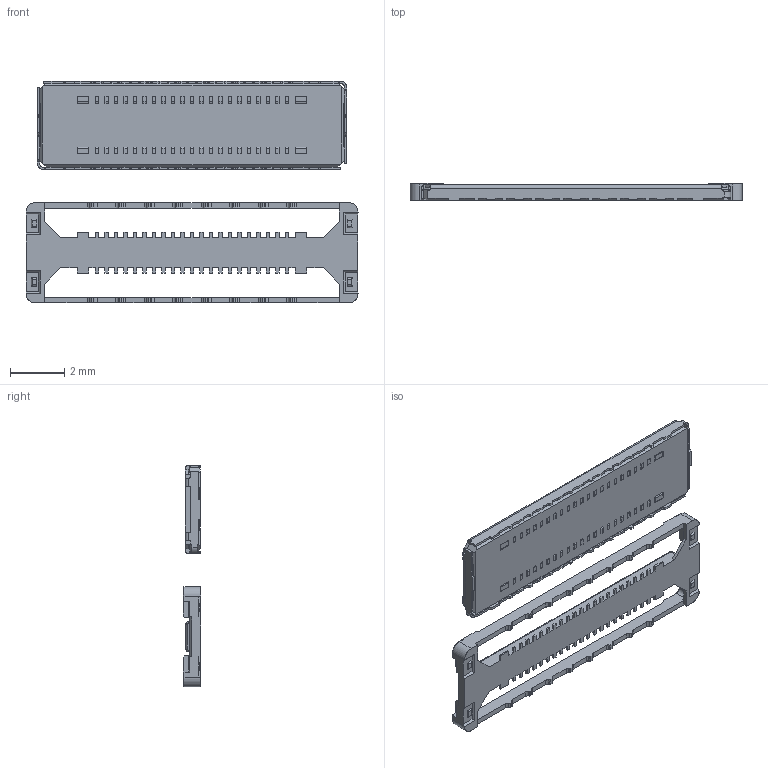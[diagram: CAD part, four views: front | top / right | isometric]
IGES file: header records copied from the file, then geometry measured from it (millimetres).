
Start section: SolidWorks IGES file using analytic representation for surfaces
Global section: file name: C:\3dwork\Baba\20230721 NOVA25-HDP WITH CAP 2IN1 HIMƒ‚ƒfƒ‹\3Dƒ‚ƒfƒ‹—p\STEP&IGES\21001-042E-01C NOVASTACK 35-HDP WITH CAP 2-IN-1 WITHOUT CAP IGES R1 ALL.IGS; native system: SolidWorks 2020; preprocessor: SolidWorks 2020; author: 83109; date: 230801.134705; units: millimetre
Bounding box: 12.24 x 0.65 x 8.18 mm (x, y, z)
Surface area: 204.3 mm2 (no closed solid volume)
Topology: 0 solids, 0 shells, 1105 faces, 6806 edges, 6802 vertices
Faces by surface type: bspline 769, revolution 336
